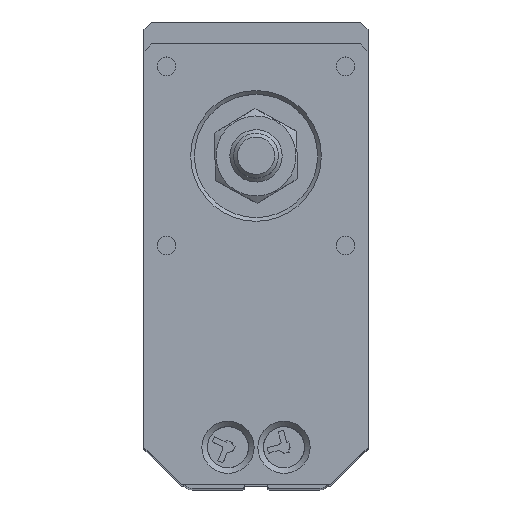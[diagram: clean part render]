
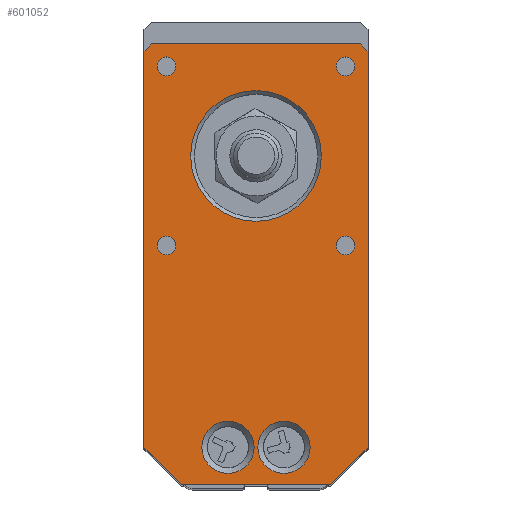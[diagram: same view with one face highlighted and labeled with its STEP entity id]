
A CAD part, top view. The second image highlights one B-rep face of the part: STEP entity #601052.
In plain terms, the highlighted planar face has unit normal (0, 0, 1).
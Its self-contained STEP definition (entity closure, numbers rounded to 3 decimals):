
#22229 = CIRCLE ( 'NONE', #355615, 3.5 ) ;
#24990 = FACE_OUTER_BOUND ( 'NONE', #713558, .T. ) ;
#53142 = VERTEX_POINT ( 'NONE', #609823 ) ;
#64383 = ORIENTED_EDGE ( 'NONE', *, *, #270679, .T. ) ;
#68461 = DIRECTION ( 'NONE',  ( 1., 0., 0. ) ) ;
#68500 = EDGE_CURVE ( 'NONE', #685525, #289671, #857454, .T. ) ;
#70976 = VERTEX_POINT ( 'NONE', #397949 ) ;
#78363 = ORIENTED_EDGE ( 'NONE', *, *, #650335, .T. ) ;
#79793 = VECTOR ( 'NONE', #777350, 1000. ) ;
#87584 = AXIS2_PLACEMENT_3D ( 'NONE', #562079, #140249, #775160 ) ;
#101828 = FACE_BOUND ( 'NONE', #267466, .T. ) ;
#103149 = CARTESIAN_POINT ( 'NONE',  ( -29.373, 0.098, -78.225 ) ) ;
#128157 = LINE ( 'NONE', #422789, #704908 ) ;
#129780 = CARTESIAN_POINT ( 'NONE',  ( -12.623, 36.348, -78.225 ) ) ;
#140249 = DIRECTION ( 'NONE',  ( 0., 0., 1. ) ) ;
#143455 = CARTESIAN_POINT ( 'NONE',  ( -55.123, 51.098, -78.225 ) ) ;
#149319 = DIRECTION ( 'NONE',  ( 1., 0., 0. ) ) ;
#154866 = DIRECTION ( 'NONE',  ( -1., 0., 0. ) ) ;
#161424 = EDGE_CURVE ( 'NONE', #490765, #490765, #377657, .T. ) ;
#164753 = LINE ( 'NONE', #849807, #79793 ) ;
#165467 = FACE_BOUND ( 'NONE', #338692, .T. ) ;
#169702 = CARTESIAN_POINT ( 'NONE',  ( -34.623, -5.152, -78.225 ) ) ;
#181450 = EDGE_LOOP ( 'NONE', ( #198277 ) ) ;
#181935 = VERTEX_POINT ( 'NONE', #287756 ) ;
#192335 = ORIENTED_EDGE ( 'NONE', *, *, #831713, .F. ) ;
#193871 = DIRECTION ( 'NONE',  ( 1., 0., 0. ) ) ;
#198277 = ORIENTED_EDGE ( 'NONE', *, *, #838387, .T. ) ;
#203510 = EDGE_LOOP ( 'NONE', ( #444704 ) ) ;
#210101 = ORIENTED_EDGE ( 'NONE', *, *, #161424, .F. ) ;
#210487 = VECTOR ( 'NONE', #465747, 1000. ) ;
#221153 = VECTOR ( 'NONE', #725165, 1000. ) ;
#236389 = CARTESIAN_POINT ( 'NONE',  ( -32.373, 51.098, -78.225 ) ) ;
#237768 = LINE ( 'NONE', #169702, #838355 ) ;
#239892 = EDGE_CURVE ( 'NONE', #596598, #53142, #128157, .T. ) ;
#239893 = CARTESIAN_POINT ( 'NONE',  ( -59.373, -4.902, -78.225 ) ) ;
#246993 = DIRECTION ( 'NONE',  ( 0., 0., 1. ) ) ;
#257343 = CARTESIAN_POINT ( 'NONE',  ( -31.123, 27.098, -78.225 ) ) ;
#267466 = EDGE_LOOP ( 'NONE', ( #210101 ) ) ;
#269163 = VERTEX_POINT ( 'NONE', #858202 ) ;
#269699 = EDGE_LOOP ( 'NONE', ( #565580 ) ) ;
#270679 = EDGE_CURVE ( 'NONE', #53142, #269163, #738595, .T. ) ;
#277223 = DIRECTION ( 'NONE',  ( 0., 0., 1. ) ) ;
#278371 = CARTESIAN_POINT ( 'NONE',  ( -56.373, 51.098, -78.225 ) ) ;
#278491 = DIRECTION ( 'NONE',  ( 0., 1., 0. ) ) ;
#282849 = DIRECTION ( 'NONE',  ( 0., 0., 1. ) ) ;
#287756 = CARTESIAN_POINT ( 'NONE',  ( -59.373, 53.098, -78.225 ) ) ;
#289671 = VERTEX_POINT ( 'NONE', #530597 ) ;
#304549 = VERTEX_POINT ( 'NONE', #730597 ) ;
#314749 = LINE ( 'NONE', #740881, #526986 ) ;
#318623 = ORIENTED_EDGE ( 'NONE', *, *, #239892, .T. ) ;
#319199 = DIRECTION ( 'NONE',  ( 0., -1., 0. ) ) ;
#319488 = DIRECTION ( 'NONE',  ( 1., 0., 0. ) ) ;
#338692 = EDGE_LOOP ( 'NONE', ( #636700 ) ) ;
#341755 = DIRECTION ( 'NONE',  ( 1., 0., 0. ) ) ;
#346475 = ORIENTED_EDGE ( 'NONE', *, *, #506767, .F. ) ;
#355615 = AXIS2_PLACEMENT_3D ( 'NONE', #815411, #470691, #193871 ) ;
#358010 = CARTESIAN_POINT ( 'NONE',  ( -40.623, 0.098, -78.225 ) ) ;
#360563 = EDGE_CURVE ( 'NONE', #181935, #596598, #314749, .T. ) ;
#369090 = AXIS2_PLACEMENT_3D ( 'NONE', #550746, #686748, #763779 ) ;
#377657 = CIRCLE ( 'NONE', #87584, 1.25 ) ;
#397949 = CARTESIAN_POINT ( 'NONE',  ( -31.123, 51.098, -78.225 ) ) ;
#406585 = LINE ( 'NONE', #129780, #210487 ) ;
#417605 = AXIS2_PLACEMENT_3D ( 'NONE', #278371, #282849, #341755 ) ;
#421280 = ORIENTED_EDGE ( 'NONE', *, *, #715552, .T. ) ;
#421456 = ORIENTED_EDGE ( 'NONE', *, *, #505825, .T. ) ;
#422789 = CARTESIAN_POINT ( 'NONE',  ( -54.123, -5.152, -78.225 ) ) ;
#444581 = CARTESIAN_POINT ( 'NONE',  ( -29.373, 54.098, -78.225 ) ) ;
#444704 = ORIENTED_EDGE ( 'NONE', *, *, #834790, .F. ) ;
#449197 = AXIS2_PLACEMENT_3D ( 'NONE', #358010, #770866, #149319 ) ;
#461077 = CIRCLE ( 'NONE', #417605, 1.25 ) ;
#462515 = AXIS2_PLACEMENT_3D ( 'NONE', #685454, #277223, #68461 ) ;
#465747 = DIRECTION ( 'NONE',  ( -0.707, 0.707, 0. ) ) ;
#468223 = CARTESIAN_POINT ( 'NONE',  ( -58.373, 54.098, -78.225 ) ) ;
#470691 = DIRECTION ( 'NONE',  ( 0., 0., 1. ) ) ;
#481753 = VERTEX_POINT ( 'NONE', #731700 ) ;
#490765 = VERTEX_POINT ( 'NONE', #885643 ) ;
#505825 = EDGE_CURVE ( 'NONE', #269163, #685525, #237768, .T. ) ;
#506265 = VERTEX_POINT ( 'NONE', #143455 ) ;
#506767 = EDGE_CURVE ( 'NONE', #304549, #304549, #651876, .T. ) ;
#507801 = VERTEX_POINT ( 'NONE', #784415 ) ;
#510334 = FACE_BOUND ( 'NONE', #269699, .T. ) ;
#513217 = DIRECTION ( 'NONE',  ( 0., 0., 1. ) ) ;
#514583 = DIRECTION ( 'NONE',  ( 0.707, 0.707, 0. ) ) ;
#520200 = CIRCLE ( 'NONE', #462515, 1.25 ) ;
#526986 = VECTOR ( 'NONE', #319199, 1000. ) ;
#530597 = CARTESIAN_POINT ( 'NONE',  ( -29.373, 53.098, -78.225 ) ) ;
#550746 = CARTESIAN_POINT ( 'NONE',  ( -44.373, 39.098, -78.225 ) ) ;
#562079 = CARTESIAN_POINT ( 'NONE',  ( -56.373, 27.098, -78.225 ) ) ;
#565363 = CARTESIAN_POINT ( 'NONE',  ( -35.623, 39.098, -78.225 ) ) ;
#565580 = ORIENTED_EDGE ( 'NONE', *, *, #841145, .F. ) ;
#572696 = VECTOR ( 'NONE', #154866, 1000. ) ;
#578437 = CARTESIAN_POINT ( 'NONE',  ( -44.373, 4.598, -78.225 ) ) ;
#582940 = FACE_BOUND ( 'NONE', #655556, .T. ) ;
#587974 = EDGE_CURVE ( 'NONE', #507801, #507801, #22229, .T. ) ;
#596598 = VERTEX_POINT ( 'NONE', #892411 ) ;
#601052 = ADVANCED_FACE ( 'NONE', ( #510334, #582940, #24990, #859468, #101828, #165467, #732203, #655313 ), #727741, .T. ) ;
#603852 = AXIS2_PLACEMENT_3D ( 'NONE', #236389, #513217, #789856 ) ;
#609823 = CARTESIAN_POINT ( 'NONE',  ( -54.373, -4.902, -78.225 ) ) ;
#609859 = EDGE_LOOP ( 'NONE', ( #346475 ) ) ;
#622542 = VECTOR ( 'NONE', #278491, 1000. ) ;
#622827 = VERTEX_POINT ( 'NONE', #468223 ) ;
#635977 = DIRECTION ( 'NONE',  ( 0.707, -0.707, 0. ) ) ;
#636700 = ORIENTED_EDGE ( 'NONE', *, *, #587974, .F. ) ;
#644808 = CARTESIAN_POINT ( 'NONE',  ( -59.373, 54.098, -78.225 ) ) ;
#650335 = EDGE_CURVE ( 'NONE', #622827, #181935, #164753, .T. ) ;
#651876 = CIRCLE ( 'NONE', #449197, 3.5 ) ;
#655313 = FACE_BOUND ( 'NONE', #181450, .T. ) ;
#655556 = EDGE_LOOP ( 'NONE', ( #192335 ) ) ;
#685454 = CARTESIAN_POINT ( 'NONE',  ( -32.373, 27.098, -78.225 ) ) ;
#685525 = VERTEX_POINT ( 'NONE', #103149 ) ;
#686748 = DIRECTION ( 'NONE',  ( 0., 0., -1. ) ) ;
#704908 = VECTOR ( 'NONE', #635977, 1000. ) ;
#713558 = EDGE_LOOP ( 'NONE', ( #854596, #808813, #421280, #78363, #846698, #318623, #64383, #421456 ) ) ;
#715552 = EDGE_CURVE ( 'NONE', #481753, #622827, #771961, .T. ) ;
#716057 = EDGE_CURVE ( 'NONE', #289671, #481753, #406585, .T. ) ;
#725165 = DIRECTION ( 'NONE',  ( 1., 0., 0. ) ) ;
#727741 = PLANE ( 'NONE',  #755551 ) ;
#730597 = CARTESIAN_POINT ( 'NONE',  ( -37.123, 0.098, -78.225 ) ) ;
#731700 = CARTESIAN_POINT ( 'NONE',  ( -30.373, 54.098, -78.225 ) ) ;
#732203 = FACE_BOUND ( 'NONE', #609859, .T. ) ;
#738595 = LINE ( 'NONE', #239893, #221153 ) ;
#740881 = CARTESIAN_POINT ( 'NONE',  ( -59.373, 54.098, -78.225 ) ) ;
#755551 = AXIS2_PLACEMENT_3D ( 'NONE', #578437, #246993, #319488 ) ;
#763779 = DIRECTION ( 'NONE',  ( 1., 0., 0. ) ) ;
#770866 = DIRECTION ( 'NONE',  ( 0., 0., 1. ) ) ;
#771961 = LINE ( 'NONE', #644808, #572696 ) ;
#775160 = DIRECTION ( 'NONE',  ( 1., 0., 0. ) ) ;
#777350 = DIRECTION ( 'NONE',  ( -0.707, -0.707, 0. ) ) ;
#784415 = CARTESIAN_POINT ( 'NONE',  ( -44.623, 0.098, -78.225 ) ) ;
#789856 = DIRECTION ( 'NONE',  ( 1., 0., 0. ) ) ;
#808813 = ORIENTED_EDGE ( 'NONE', *, *, #716057, .T. ) ;
#815411 = CARTESIAN_POINT ( 'NONE',  ( -48.123, 0.098, -78.225 ) ) ;
#831713 = EDGE_CURVE ( 'NONE', #70976, #70976, #864088, .T. ) ;
#834790 = EDGE_CURVE ( 'NONE', #896676, #896676, #520200, .T. ) ;
#837475 = VERTEX_POINT ( 'NONE', #565363 ) ;
#838355 = VECTOR ( 'NONE', #514583, 1000. ) ;
#838387 = EDGE_CURVE ( 'NONE', #837475, #837475, #876196, .T. ) ;
#841145 = EDGE_CURVE ( 'NONE', #506265, #506265, #461077, .T. ) ;
#846698 = ORIENTED_EDGE ( 'NONE', *, *, #360563, .T. ) ;
#849807 = CARTESIAN_POINT ( 'NONE',  ( -76.123, 36.348, -78.225 ) ) ;
#854596 = ORIENTED_EDGE ( 'NONE', *, *, #68500, .T. ) ;
#857454 = LINE ( 'NONE', #444581, #622542 ) ;
#858202 = CARTESIAN_POINT ( 'NONE',  ( -34.373, -4.902, -78.225 ) ) ;
#859468 = FACE_BOUND ( 'NONE', #203510, .T. ) ;
#864088 = CIRCLE ( 'NONE', #603852, 1.25 ) ;
#876196 = CIRCLE ( 'NONE', #369090, 8.75 ) ;
#885643 = CARTESIAN_POINT ( 'NONE',  ( -55.123, 27.098, -78.225 ) ) ;
#892411 = CARTESIAN_POINT ( 'NONE',  ( -59.373, 0.098, -78.225 ) ) ;
#896676 = VERTEX_POINT ( 'NONE', #257343 ) ;
